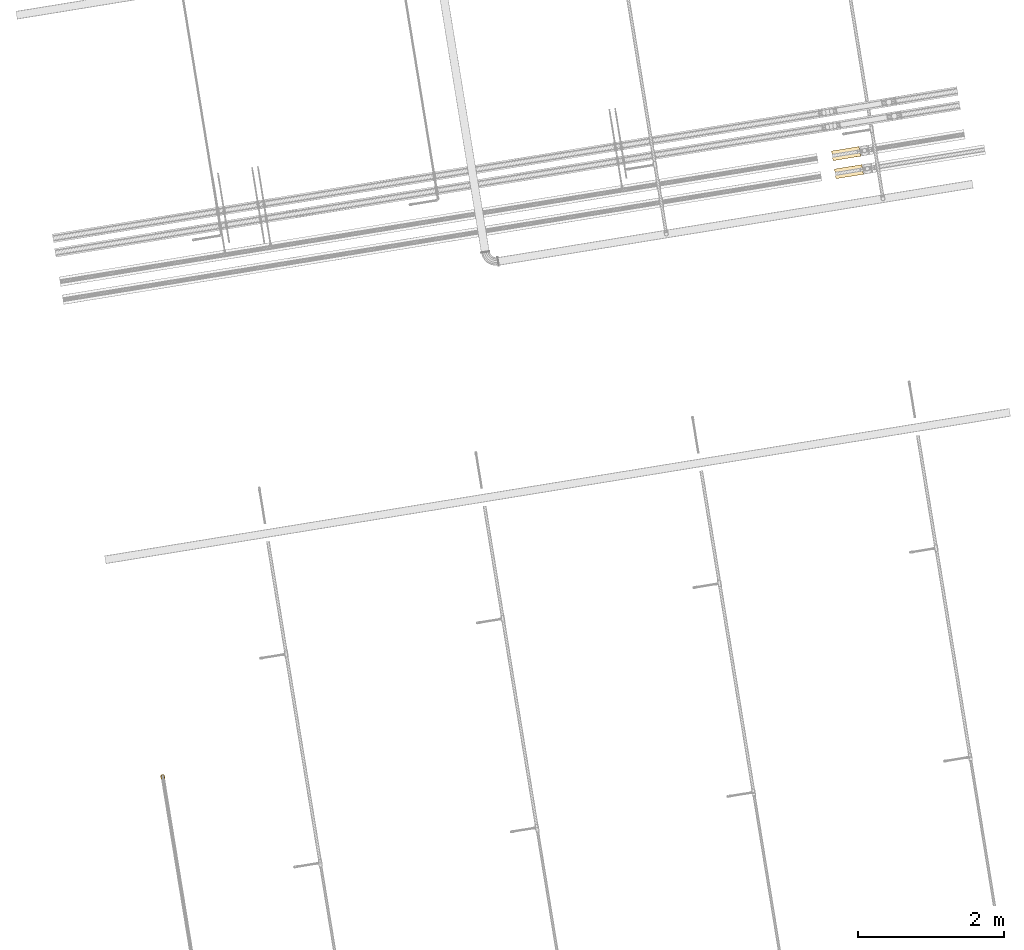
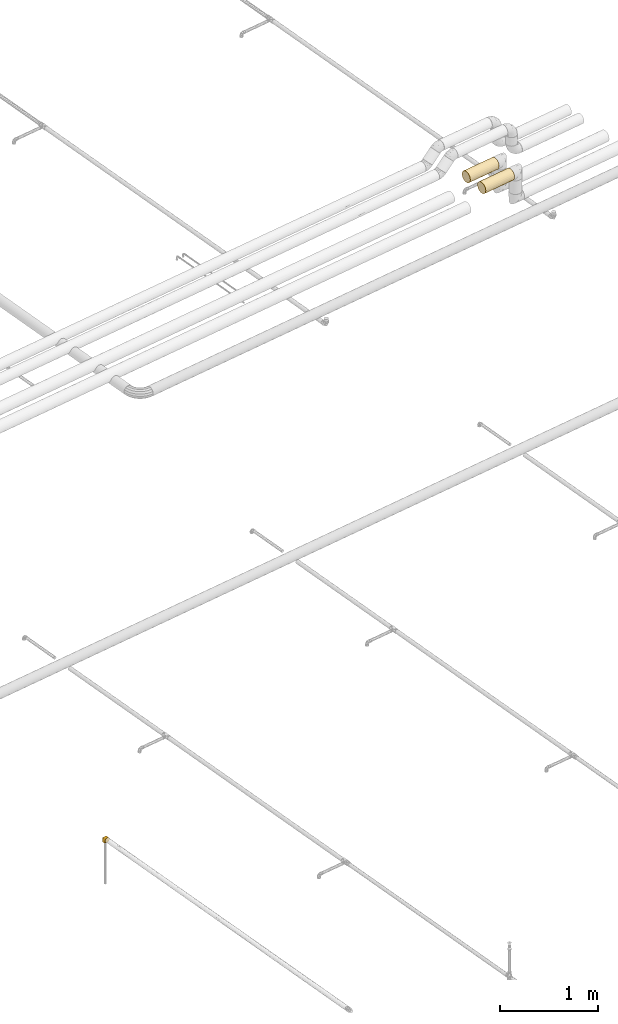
# One storey, part 4 of 56: 3 coverings.
"""IFC2X3 building model written with IfcOpenShell, lengths in millimetres."""

from ifc_helpers import new_model, entity, si_unit, converted_unit, derived_unit, direction, frame, origin, origin_with_axes, place, context, subcontext, project, spatial, faceted_brep, material, type_object, element, save


model = new_model("IFC2X3")

# Units and contexts
model_context = context("Model", 3, precision=0.01, world=origin(), true_north=direction((6.12323399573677e-17, 1.0)))
plan_context = context("Plan", 3, precision=1e-05, world=origin_with_axes())
body_context = subcontext(model_context, "Body", "Model", "MODEL_VIEW")
ifc_project = project(units=[converted_unit("PLANEANGLEUNIT", "DEGREE", entity("IfcPositiveLengthMeasure", 0.0174532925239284), si_unit("PLANEANGLEUNIT", "RADIAN"), dimensions=[0, 0, 0, 0, 0, 0, 0]), si_unit("AREAUNIT", "SQUARE_METRE"), si_unit("LENGTHUNIT", "METRE", prefix="MILLI"), si_unit("MASSUNIT", "GRAM", prefix="KILO"), si_unit("POWERUNIT", "WATT"), si_unit("PRESSUREUNIT", "PASCAL", prefix="KILO"), si_unit("FORCEUNIT", "NEWTON", prefix="KILO"), si_unit("ELECTRICVOLTAGEUNIT", "VOLT"), si_unit("ELECTRICCURRENTUNIT", "AMPERE"), si_unit("THERMODYNAMICTEMPERATUREUNIT", "DEGREE_CELSIUS"), si_unit("TIMEUNIT", "SECOND"), si_unit("VOLUMEUNIT", "CUBIC_METRE"), derived_unit("LINEARVELOCITYUNIT", [(si_unit("LENGTHUNIT", "METRE"), 1), (si_unit("TIMEUNIT", "SECOND"), -1)]), derived_unit("VOLUMETRICFLOWRATEUNIT", [(si_unit("VOLUMEUNIT", "CUBIC_METRE"), 1), (si_unit("TIMEUNIT", "SECOND"), -1)]), derived_unit("THERMALTRANSMITTANCEUNIT", [(si_unit("POWERUNIT", "WATT"), 1), (si_unit("THERMODYNAMICTEMPERATUREUNIT", "KELVIN"), -1), (si_unit("AREAUNIT", "SQUARE_METRE"), -1)]), derived_unit("SOUNDPRESSUREUNIT", [(si_unit("PRESSUREUNIT", "PASCAL"), 1)])], contexts=[model_context, plan_context])

# Site, building, storey
site_placement = place(None, frame((-3.09682673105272e-06, 1.93776733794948e-05, 0.0), z_axis=(0.0, 0.0, 1.0), x_axis=(-0.160806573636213, 0.986985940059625, 0.0)))
site = spatial("IfcSite", under=ifc_project, at=site_placement, Name="Default", CompositionType="ELEMENT")
building_placement = place(site_placement, frame((0.0, 0.0, 0.0), z_axis=(0.0, 0.0, 1.0), x_axis=(1.0, -2.77555756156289e-17, 0.0)))
building = spatial("IfcBuilding", under=site, at=building_placement, Name="Bygning (endres i Project Information)", CompositionType="ELEMENT")
storey_placement = place(building_placement, frame((0.0, 0.0, 51360.0000000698), z_axis=(0.0, 0.0, 1.0), x_axis=(1.0, -2.77555756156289e-17, 0.0)))
storey = spatial("IfcBuildingStorey", under=building, at=storey_placement, Name="H01-Nivå D+0,36", CompositionType="ELEMENT", Elevation=51360.0000000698)

# Coverings
ifc_material_1 = material(Name="3103.001 KV")
covering_type_1 = type_object("IfcCoveringType", Name="Pipe Insulation:GLAVA kondensisol. slange økende 13mm (11,0-16,0)", PredefinedType="INSULATION")
covering_1_placement = place(storey_placement, frame((1004355.11179516, -384380.253231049, 3730.09527223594), z_axis=(0.0, 0.0, 1.0), x_axis=(1.0, -2.77555756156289e-17, 0.0)))
element("IfcCovering", 1, at=covering_1_placement, inside=storey, type_object=covering_type_1, material=ifc_material_1, Name="Pipe Insulation:GLAVA kondensisol. slange økende 13mm (11,0-16,0)", ObjectType="Pipe Insulation:GLAVA kondensisol. slange økende 13mm (11,0-16,0)", PredefinedType="INSULATION", context=body_context, shape_type="Brep", body=[
    faceted_brep([(36.0, 23.0375386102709, -2.48298518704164), (0.0, 30.0952722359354, -1.5952722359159), (0.0, 22.7189294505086, -2.56638618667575), (0.0, 15.8452722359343, -5.41354822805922), (36.0, 16.4202853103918, -5.09037806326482), (22.3496227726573, 1.59527223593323, -30.0952722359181), (32.9996913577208, 1.61283233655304, -29.0949635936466), (32.4869396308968, 1.63986369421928, -28.5822118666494), (32.0, 1.66553428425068, -28.0952722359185), (0.0, 9.94272897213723, -9.94272897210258), (36.0, 10.6548315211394, -9.25494438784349), (36.0, 30.0952722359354, -1.5952722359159), (10.6992471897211, 1.59527223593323, -30.0952722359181), (36.0, 6.10025913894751, -14.7170621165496), (36.0, 3.03996018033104, -21.1364726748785), (0.0, 5.41354822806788, -15.845272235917), (0.0, 2.56638618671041, -22.7189294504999), (0.0, 1.59527223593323, -30.0952722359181), (36.0, 1.66553428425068, -28.0952722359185), (34.0, 1.59527223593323, -30.0952722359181), (35.000308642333, 1.61283233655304, -29.0949635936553), (36.0, 1.59527223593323, -30.0952722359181), (36.0, 42.3994950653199, -18.57736558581), (36.0, 47.3407808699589, -22.8123578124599), (36.0, 51.1427139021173, -28.0952722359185), (36.0, 58.5250101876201, -28.0952722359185), (36.0, 57.1505842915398, -21.1364726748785), (36.0, 54.0902853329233, -14.717062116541), (36.0, 49.5357129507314, -9.25494438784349), (36.0, 43.770259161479, -5.09037806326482), (36.0, 37.1530058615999, -2.48298518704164), (36.0, 9.04783056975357, -28.0952722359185), (36.0, 12.8497636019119, -22.8123578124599), (36.0, 17.7910494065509, -18.57736558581), (36.0, 23.676939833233, -15.8130237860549), (36.0, 30.0952722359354, -14.8509832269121), (36.0, 36.5136046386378, -15.8130237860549), (36.0, 1.66553428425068, -32.0952722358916), (36.0, 1.63098246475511, -28.7502005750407), (36.0, 1.61290907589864, -29.0927809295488), (36.0, 1.61316291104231, -31.1049496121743), (36.0, 1.6308998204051, -31.4403477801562), (36.0, 58.5952722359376, -30.0952722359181), (36.0, 58.5776353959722, -29.0927809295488), (36.0, 58.5595620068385, -28.7502005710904), (36.0, 58.5250101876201, -32.0952722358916), (36.0, 58.5596446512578, -31.4403477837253), (36.0, 58.5773815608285, -31.1049496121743), (0.0, 31.9393579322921, -58.352493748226), (0.0, 33.7834436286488, -58.1097152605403), (4.44631296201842, 32.8454938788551, -58.3273600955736), (4.89913605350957, 38.2248587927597, -57.2730007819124), (0.0, 37.4716150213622, -57.6241582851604), (0.0, 39.1900293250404, -56.912367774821), (0.0, 50.2478154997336, -50.2478154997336), (7.09322573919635, 47.7365660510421, -52.3210767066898), (0.0, 47.2965438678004, -52.5124058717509), (0.0, 42.6268579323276, -55.488786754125), (0.0, 44.3452722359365, -54.7769962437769), (5.77915648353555, 43.2555567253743, -55.2290782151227), (4.56249890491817, 35.5957155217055, -58.0594479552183), (0.0, 35.6275293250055, -57.866936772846), (4.5044059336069, 34.2206047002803, -58.1934040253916), (7.86391171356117, 49.8160207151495, -50.6705505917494), (5.23577320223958, 40.8540020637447, -56.4865536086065), (0.0, 40.9084436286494, -56.2005772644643), (6.32253976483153, 45.6571113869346, -53.9716028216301), (0.0, 52.5124058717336, -47.2965438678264), (0.0, 54.7769962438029, -44.3452722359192), (10.0314721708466, 53.1570959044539, -46.8404891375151), (13.1982986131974, 55.5149672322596, -42.9828284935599), (0.0, 57.6241582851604, -37.4716150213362), (23.1773980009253, 57.0952722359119, -39.2194160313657), (17.7452992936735, 56.7694858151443, -40.1320212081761), (29.3750346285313, 58.2175000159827, -34.7202376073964), (0.0, 58.5952722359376, -30.0952722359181), (4.38821999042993, 31.4703830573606, -58.4613161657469), (24.8111800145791, 57.073329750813, -39.2840922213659), (23.9949796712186, 57.0896581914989, -39.2360121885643), (10.6992433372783, 58.5952722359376, -30.0952722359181), (22.3496216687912, 58.5952722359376, -30.0952722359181), (34.0, 58.5952722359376, -30.0952722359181), (0.0, 30.0952722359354, -58.5952722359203), (4.33012701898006, 30.0952722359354, -58.5952722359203), (29.3747052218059, 1.97309863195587, -34.7205670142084), (0.0, 2.56638618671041, -37.4716150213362), (4.38821999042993, 28.7201614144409, -58.4613161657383), (0.0, 28.2511865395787, -58.352493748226), (13.1982986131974, 4.67557723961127, -42.9828284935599), (17.7452992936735, 3.42105865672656, -40.1320212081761), (0.0, 5.41354822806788, -44.3452722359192), (10.0314721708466, 7.03344856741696, -46.8404891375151), (0.0, 17.5636865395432, -55.488786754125), (5.23577320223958, 19.3365424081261, -56.4865536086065), (5.77915648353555, 16.9349877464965, -55.2290782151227), (0.0, 12.8940006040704, -52.5124058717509), (6.32253976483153, 14.5334330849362, -53.9716028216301), (7.09322573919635, 12.4539784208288, -52.3210767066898), (23.1773980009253, 3.09527223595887, -39.2194160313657), (0.0, 7.67813860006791, -47.2965438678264), (0.0, 9.94272897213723, -50.2478154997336), (7.86391171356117, 10.3745237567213, -50.6705505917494), (23.9949796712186, 3.10088628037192, -39.2360121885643), (24.8111800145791, 3.11721472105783, -39.2840922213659), (4.44631296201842, 27.3450505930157, -58.3273600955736), (0.0, 26.407100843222, -58.1097152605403), (0.0, 24.5630151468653, -57.866936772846), (4.5044059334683, 25.9699397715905, -58.1934040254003), (0.0, 15.8452722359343, -54.7769962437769), (0.0, 21.0005151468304, -56.9123677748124), (4.89913605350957, 21.9656856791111, -57.2730007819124), (0.0, 22.7189294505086, -57.6241582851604), (4.56249890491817, 24.5948289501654, -58.0594479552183), (0.0, 19.2821008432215, -56.2005772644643), (32.0, 58.5250101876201, -28.0952722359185), (32.4869396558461, 58.550680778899, -28.5822118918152), (32.9996913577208, 58.5777121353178, -29.0949635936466), (0.0, 57.6241582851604, -22.7189294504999), (0.0, 54.7769962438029, -15.845272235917), (35.000308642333, 58.5777121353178, -29.0949635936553), (0.0, 50.2478154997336, -9.94272897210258), (0.0, 44.3452722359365, -5.41354822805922), (0.0, 37.4716150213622, -2.56638618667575), (61.6128730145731, 37.1507129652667, -28.0952722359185), (62.5000000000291, 30.0952722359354, -64.095272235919), (61.5288860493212, 37.4716150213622, -64.095272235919), (58.6817240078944, 44.3452722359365, -64.095272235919), (59.0071711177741, 43.766094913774, -28.0952722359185), (34.0, 58.5952722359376, -41.7456498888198), (35.000308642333, 58.5777121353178, -31.0955808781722), (35.5130603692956, 58.5506807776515, -31.6083326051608), (54.1525432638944, 50.2478154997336, -64.095272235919), (54.8451890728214, 49.5305003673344, -28.0952722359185), (62.5000000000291, 30.0952722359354, -28.0952722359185), (34.0, 58.5952722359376, -53.3960275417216), (49.3862189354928, 54.0851506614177, -28.0952722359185), (42.9700981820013, 57.1468403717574, -28.0952722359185), (48.250000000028, 54.7769962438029, -64.095272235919), (41.3763427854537, 57.6241582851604, -64.095272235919), (34.0, 58.5952722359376, -64.095272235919), (34.0, 58.5952722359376, -28.0952722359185), (45.517906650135, 17.7910494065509, -28.0952722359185), (41.2829144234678, 12.8497636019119, -28.0952722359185), (42.9700981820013, 3.04370410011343, -28.0952722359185), (49.3862189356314, 6.1053938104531, -28.0952722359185), (54.8451890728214, 10.6600441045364, -28.0952722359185), (59.0071711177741, 16.4244495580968, -28.0952722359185), (61.6128730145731, 23.0398315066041, -28.0952722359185), (41.2829144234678, 47.3407808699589, -28.0952722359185), (45.517906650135, 42.3994950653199, -28.0952722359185), (48.2822484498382, 36.5136046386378, -28.0952722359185), (49.2442890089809, 30.0952722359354, -28.0952722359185), (48.2822484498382, 23.676939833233, -28.0952722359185), (35.3450755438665, 58.5596446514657, -28.0952722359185), (35.0096773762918, 58.5773815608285, -28.0952722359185), (32.990322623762, 58.5773815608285, -28.0952722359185), (32.6549244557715, 58.5596446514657, -28.0952722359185), (34.0, 1.59527223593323, -28.0952722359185), (35.0096773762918, 1.61316291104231, -28.0952722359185), (35.3450755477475, 1.63089982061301, -28.0952722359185), (32.6549244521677, 1.63089982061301, -28.0952722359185), (32.990322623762, 1.61316291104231, -28.0952722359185), (26.6236572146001, 57.6241582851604, -64.095272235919), (5.50000000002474, 30.0952722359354, -64.095272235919), (5.63395607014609, 31.4703830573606, -59.7070522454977), (5.74277848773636, 31.9393579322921, -64.095272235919), (21.1124437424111, 55.5149672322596, -50.896973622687), (23.9632510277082, 56.7694858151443, -46.3499729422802), (19.7500000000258, 54.7769962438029, -64.095272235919), (17.2547830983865, 53.1570959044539, -54.063800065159), (8.6064854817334, 42.6268579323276, -64.095272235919), (7.60871862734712, 40.8540020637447, -58.8594990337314), (8.86619402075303, 43.2555567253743, -58.3161157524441), (11.5828663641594, 47.2965438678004, -64.095272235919), (10.1236694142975, 45.6571113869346, -57.7727324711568), (11.7741955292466, 47.7365660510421, -57.0020464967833), (24.8758562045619, 57.0952722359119, -40.9178742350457), (16.7987283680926, 52.5124058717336, -64.095272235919), (13.8474567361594, 50.2478154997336, -64.095272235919), (13.4247216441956, 49.8160207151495, -56.2313605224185), (24.8592600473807, 57.0896581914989, -40.100292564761), (5.76791214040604, 32.8454938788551, -59.6489592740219), (5.98555697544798, 33.7834436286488, -64.095272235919), (6.22833546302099, 35.6275293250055, -64.0952722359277), (5.90186821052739, 34.2206047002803, -59.590866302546), (9.3182759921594, 44.3452722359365, -64.095272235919), (7.18290446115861, 39.1900293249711, -64.095272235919), (6.82227145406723, 38.2248587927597, -59.1961361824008), (6.47111395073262, 37.4716150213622, -64.095272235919), (6.03582428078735, 35.5957155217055, -59.5327733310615), (7.89469497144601, 40.9084436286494, -64.095272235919), (5.50000000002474, 30.0952722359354, -59.7651452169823), (34.0, 1.59527223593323, -41.745651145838), (35.5130603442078, 1.63986369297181, -31.608332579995), (35.000308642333, 1.61283233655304, -31.0955808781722), (34.0, 1.59527223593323, -53.3960300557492), (41.3763427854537, 2.56638618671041, -64.095272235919), (48.250000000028, 5.41354822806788, -64.095272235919), (34.0, 1.59527223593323, -64.095272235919), (54.1525432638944, 9.94272897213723, -64.095272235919), (58.6817240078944, 15.8452722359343, -64.095272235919), (61.5288860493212, 22.7189294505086, -64.095272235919), (42.1256266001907, 21.438588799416, -21.9696454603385), (43.1335136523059, 30.0952722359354, -20.9617585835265), (42.1256267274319, 38.7519557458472, -21.9696456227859), (35.513060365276, 1.63986369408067, -28.582211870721), (35.5130603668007, 58.5506807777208, -28.5822118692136), (26.6236572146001, 2.56638618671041, -64.095272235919), (19.7500000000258, 5.41354822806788, -64.095272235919), (16.7987283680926, 7.67813860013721, -64.095272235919), (13.8474567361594, 9.94272897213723, -64.095272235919), (11.5828663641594, 12.8940006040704, -64.095272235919), (9.3182759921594, 15.8452722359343, -64.095272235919), (8.606485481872, 17.5636865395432, -64.095272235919), (7.89469497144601, 19.2821008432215, -64.095272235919), (7.18290446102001, 21.0005151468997, -64.095272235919), (6.47111395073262, 22.7189294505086, -64.095272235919), (6.2283354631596, 24.5630151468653, -64.095272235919), (5.98555697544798, 26.407100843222, -64.095272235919), (5.74277848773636, 28.2511865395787, -64.095272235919), (5.76791214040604, 27.3450505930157, -59.6489592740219), (6.82227145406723, 21.9656856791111, -59.1961361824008), (11.7741955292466, 12.4539784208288, -57.0020464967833), (8.86619402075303, 16.9349877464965, -58.3161157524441), (6.03582428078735, 24.5948289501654, -59.5327733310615), (5.901868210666, 25.9699397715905, -59.590866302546), (13.4247216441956, 10.3745237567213, -56.2313605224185), (7.60871862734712, 19.3365424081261, -58.8594990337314), (10.1236694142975, 14.5334330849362, -57.7727324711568), (17.2547830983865, 7.03344856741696, -54.063800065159), (21.1124437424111, 4.67557723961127, -50.896973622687), (24.8758562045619, 3.09527223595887, -40.9178742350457), (23.9632510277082, 3.42105865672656, -46.3499729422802), (5.63395607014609, 28.7201614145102, -59.7070522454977), (24.8592600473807, 3.10088628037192, -40.100292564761), (12.5667803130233, 7.45784690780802, -49.4676744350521), (10.795353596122, 10.6511909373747, -53.299918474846), (14.8376852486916, 7.4578465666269, -51.7772487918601), (20.807591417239, 3.5967024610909, -44.1535254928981), (16.8529359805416, 5.08236859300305, -47.2423356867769), (19.8186447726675, 4.4900946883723, -48.1543171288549), (7.88860716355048, 15.7022298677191, -56.2066651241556), (16.1478122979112, 4.40134820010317, -44.0965734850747), (4.94974746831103, 30.0952722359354, -59.145524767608), (24.0416305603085, 3.09527223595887, -40.0536416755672), (24.0416305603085, 57.0952722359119, -40.0536416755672), (14.0351982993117, 54.7343271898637, -45.9265833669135), (12.8058694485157, 52.6819946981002, -49.7806184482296), (10.7953535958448, 49.5393535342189, -53.299918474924), (19.8772604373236, 56.5758868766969, -43.3519647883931), (19.975344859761, 55.7845213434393, -47.9415737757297), (16.7315468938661, 55.037713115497, -47.3637251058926), (7.88860716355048, 44.4883146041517, -56.2066651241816), (15.4294935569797, 53.1193326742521, -51.5324654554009)], [[[0, 1, 2]], [[2, 3, 4]], [[5, 6, 7, 8]], [[9, 10, 3]], [[11, 1, 0]], [[10, 4, 3]], [[2, 4, 0]], [[12, 5, 8]], [[9, 13, 10]], [[14, 15, 16]], [[12, 8, 16]], [[12, 16, 17]], [[14, 16, 8]], [[13, 15, 14]], [[18, 14, 8]], [[19, 6, 5]], [[20, 19, 21]], [[15, 13, 9]], [[22, 23, 24, 25, 26, 27, 28, 29, 30, 11, 0, 4, 10, 13, 14, 18, 31, 32, 33, 34, 35, 36]], [[37, 18, 38, 39, 21, 40, 41]], [[42, 43, 44, 25, 45, 46, 47]], [[48, 49, 50]], [[51, 52, 53]], [[54, 55, 56]], [[57, 58, 59]], [[60, 61, 52]], [[61, 62, 49]], [[54, 63, 55]], [[49, 62, 50]], [[51, 60, 52]], [[64, 53, 65, 57]], [[66, 56, 55]], [[63, 54, 67]], [[62, 61, 60]], [[64, 57, 59]], [[67, 68, 69]], [[58, 66, 59]], [[68, 70, 69]], [[70, 68, 71]], [[72, 73, 71]], [[71, 73, 70]], [[74, 71, 75]], [[48, 50, 76]], [[66, 58, 56]], [[77, 78, 74]], [[53, 64, 51]], [[71, 74, 72]], [[74, 75, 79, 80, 81]], [[72, 74, 78]], [[76, 82, 48]], [[82, 76, 83]], [[63, 67, 69]], [[84, 17, 85]], [[82, 86, 87]], [[85, 88, 89]], [[88, 85, 90]], [[88, 90, 91]], [[92, 93, 94]], [[95, 96, 97]], [[98, 85, 89]], [[84, 19, 5, 12, 17]], [[91, 90, 99]], [[100, 97, 101]], [[102, 103, 84]], [[98, 102, 84]], [[85, 98, 84]], [[104, 105, 87]], [[106, 105, 107]], [[96, 95, 108]], [[93, 109, 110]], [[86, 104, 87]], [[111, 110, 109]], [[105, 104, 107]], [[112, 106, 107]], [[93, 92, 113, 109]], [[91, 99, 101]], [[94, 108, 92]], [[94, 96, 108]], [[112, 111, 106]], [[95, 97, 100]], [[86, 82, 83]], [[111, 112, 110]], [[101, 99, 100]], [[80, 114, 115, 116]], [[79, 117, 114]], [[114, 117, 26]], [[26, 117, 118]], [[75, 117, 79]], [[116, 81, 80]], [[42, 81, 119]], [[80, 79, 114]], [[114, 26, 25]], [[118, 27, 26]], [[28, 120, 121]], [[29, 121, 122]], [[30, 122, 1]], [[27, 120, 28]], [[29, 28, 121]], [[122, 30, 29]], [[1, 11, 30]], [[120, 27, 118]], [[123, 124, 125]], [[125, 126, 127]], [[128, 129, 130, 45]], [[131, 132, 126]], [[133, 124, 123]], [[132, 127, 126]], [[125, 127, 123]], [[134, 128, 45]], [[131, 135, 132]], [[136, 137, 138]], [[134, 45, 138]], [[134, 138, 139]], [[136, 138, 45]], [[135, 137, 136]], [[25, 136, 45]], [[81, 129, 128]], [[119, 81, 140]], [[137, 135, 131]], [[141, 142, 31, 18, 143, 144, 145, 146, 147, 133, 123, 127, 132, 135, 136, 25, 24, 148, 149, 150, 151, 152]], [[25, 153, 154, 140, 155, 156, 114]], [[157, 158, 159, 18, 8, 160, 161]], [[74, 139, 162]], [[163, 164, 165]], [[162, 166, 167]], [[166, 162, 168]], [[166, 168, 169]], [[170, 171, 172]], [[173, 174, 175]], [[176, 162, 167]], [[74, 81, 128, 134, 139]], [[169, 168, 177]], [[178, 175, 179]], [[180, 77, 74]], [[176, 180, 74]], [[162, 176, 74]], [[181, 182, 165]], [[183, 182, 184]], [[174, 173, 185]], [[171, 186, 187]], [[164, 181, 165]], [[188, 187, 186]], [[182, 181, 184]], [[189, 183, 184]], [[171, 170, 190, 186]], [[169, 177, 179]], [[172, 185, 170]], [[172, 174, 185]], [[189, 188, 183]], [[173, 175, 178]], [[164, 163, 191]], [[188, 189, 187]], [[179, 177, 178]], [[7, 6, 161, 160, 8]], [[6, 19, 157]], [[6, 157, 161]], [[192, 37, 193, 194]], [[195, 196, 37]], [[37, 196, 143]], [[143, 196, 197]], [[198, 196, 195]], [[194, 19, 192]], [[157, 19, 20]], [[192, 195, 37]], [[37, 143, 18]], [[197, 144, 143]], [[145, 199, 200]], [[146, 200, 201]], [[147, 201, 124]], [[144, 199, 145]], [[146, 145, 200]], [[201, 147, 146]], [[124, 133, 147]], [[199, 144, 197]], [[202, 34, 33]], [[35, 34, 203]], [[203, 34, 202]], [[141, 202, 33]], [[33, 32, 142, 141]], [[152, 151, 203]], [[141, 152, 202]], [[142, 32, 31]], [[203, 202, 152]], [[22, 204, 149]], [[36, 204, 22]], [[22, 149, 148, 23]], [[24, 23, 148]], [[35, 203, 36]], [[203, 204, 36]], [[203, 151, 150]], [[204, 150, 149]], [[203, 150, 204]], [[16, 15, 9, 3, 2, 1, 122, 121, 120, 118, 117, 75, 71, 68, 67, 54, 56, 58, 57, 65, 53, 52, 61, 49, 48, 82, 87, 105, 106, 111, 109, 113, 92, 108, 95, 100, 99, 90, 85, 17]], [[205, 20, 39, 38, 18]], [[20, 21, 39]], [[21, 19, 194]], [[193, 37, 41, 40, 194]], [[194, 40, 21]], [[130, 129, 47, 46, 45]], [[129, 81, 42]], [[129, 42, 47]], [[206, 25, 44, 43, 119]], [[119, 43, 42]], [[138, 137, 131, 126, 125, 124, 201, 200, 199, 197, 196, 198, 207, 208, 209, 210, 211, 212, 213, 214, 215, 216, 217, 218, 219, 188, 186, 190, 170, 185, 173, 178, 177, 168, 162, 139]], [[219, 163, 165, 182, 183]], [[206, 119, 154, 153, 25]], [[119, 140, 154]], [[140, 81, 116]], [[115, 114, 156, 155, 116]], [[116, 155, 140]], [[219, 218, 220]], [[221, 216, 215]], [[210, 222, 211]], [[213, 212, 223]], [[224, 217, 216]], [[217, 225, 218]], [[210, 226, 222]], [[218, 225, 220]], [[221, 224, 216]], [[227, 215, 214, 213]], [[228, 211, 222]], [[226, 210, 209]], [[225, 217, 224]], [[227, 213, 223]], [[209, 208, 229]], [[212, 228, 223]], [[208, 230, 229]], [[230, 208, 207]], [[231, 232, 207]], [[207, 232, 230]], [[84, 207, 198]], [[219, 220, 233]], [[228, 212, 211]], [[103, 234, 84]], [[215, 227, 221]], [[207, 84, 231]], [[84, 198, 195, 192, 19]], [[231, 84, 234]], [[233, 163, 219]], [[163, 233, 191]], [[226, 209, 229]], [[205, 18, 159, 158, 20]], [[20, 158, 157]], [[235, 236, 237]], [[226, 229, 237]], [[101, 236, 235]], [[238, 239, 240]], [[224, 221, 227, 93, 110, 112]], [[241, 93, 227]], [[232, 240, 230]], [[96, 241, 236]], [[88, 242, 89]], [[242, 238, 98]], [[98, 89, 242]], [[236, 241, 228]], [[238, 242, 239]], [[238, 240, 232]], [[91, 242, 88]], [[243, 112, 107, 104, 86, 83]], [[243, 191, 233, 220, 225, 224]], [[235, 242, 91]], [[98, 238, 244]], [[236, 101, 97, 96]], [[236, 228, 222, 226]], [[241, 227, 223, 228]], [[229, 230, 240]], [[240, 237, 229]], [[232, 231, 238]], [[231, 244, 238]], [[242, 235, 239]], [[226, 237, 236]], [[240, 239, 237]], [[235, 237, 239]], [[101, 235, 91]], [[112, 243, 224]], [[241, 96, 94, 93]], [[102, 234, 103]], [[244, 102, 98]], [[244, 231, 234]], [[244, 234, 102]], [[72, 78, 245]], [[245, 78, 180]], [[180, 176, 245]], [[180, 78, 77]], [[246, 70, 73]], [[246, 69, 70]], [[63, 69, 247]], [[248, 66, 55, 63]], [[249, 72, 245]], [[169, 250, 166]], [[249, 251, 246]], [[252, 64, 59, 66]], [[243, 83, 76, 50, 62, 60]], [[189, 243, 60]], [[253, 247, 251]], [[73, 249, 246]], [[189, 60, 51, 64, 171, 187]], [[69, 246, 247]], [[245, 176, 249]], [[247, 246, 251]], [[249, 176, 250]], [[248, 247, 253]], [[64, 252, 171]], [[179, 253, 169]], [[167, 166, 250]], [[248, 252, 66]], [[253, 179, 248]], [[250, 169, 253]], [[243, 189, 184, 181, 164, 191]], [[248, 179, 175, 174]], [[252, 174, 172, 171]], [[248, 174, 252]], [[73, 72, 249]], [[249, 250, 251]], [[250, 253, 251]], [[167, 250, 176]], [[63, 247, 248]], [[219, 183, 188]]]),
])
ifc_material_2 = material(Name="3200.002 Retur")
covering_type_2 = type_object("IfcCoveringType", Name="Pipe Insulation:GLAVA Rørskål ClimPipe Alu2, isol.kl.4, 45°C", PredefinedType="INSULATION")
covering_2_placement = place(storey_placement, frame((1011219.80953617, -395129.820539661, 3531.40472772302), z_axis=(0.0, 0.0, 1.0), x_axis=(1.0, -2.77555756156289e-17, 0.0)))
element("IfcCovering", 2, at=covering_2_placement, inside=storey, type_object=covering_type_2, material=ifc_material_2, Name="Pipe Insulation:GLAVA Rørskål ClimPipe Alu2, isol.kl.4, 45°C", ObjectType="Pipe Insulation:GLAVA Rørskål ClimPipe Alu2, isol.kl.4, 45°C", PredefinedType="INSULATION", context=body_context, shape_type="Brep", body=[
    faceted_brep([(52.3471952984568, 1.59527223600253, 3.59527227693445), (84.8433492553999, 1.59527223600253, 3.59527227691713), (98.6988514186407, 1.59527223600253, 8.73898999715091), (111.084056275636, 1.59527223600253, 16.790801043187), (121.40149398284, 1.59527223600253, 27.3581172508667), (129.153520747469, 1.59527223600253, 39.9299875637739), (133.962563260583, 1.59527223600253, 53.8943445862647), (135.595272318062, 1.59527223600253, 68.5952722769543), (133.312302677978, 1.59527223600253, 85.9361483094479), (126.618974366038, 1.59527223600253, 102.095272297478), (115.971426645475, 1.59527223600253, 115.971426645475), (102.095272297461, 1.59527223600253, 126.618974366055), (85.9361483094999, 1.59527223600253, 133.31230267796), (68.5952722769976, 1.59527223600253, 135.595272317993), (51.2543962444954, 1.59527223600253, 133.31230267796), (35.0952722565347, 1.59527223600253, 126.618974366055), (21.2191179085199, 1.59527223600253, 115.971426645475), (10.5715701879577, 1.59527223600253, 102.095272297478), (3.87824187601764, 1.59527223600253, 85.9361483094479), (1.59527223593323, 1.59527223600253, 68.5952722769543), (3.22798129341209, 1.59527223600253, 53.8943445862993), (8.03702380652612, 1.59527223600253, 39.9299875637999), (15.7890505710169, 1.59527223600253, 27.3581172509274), (26.1064882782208, 1.59527223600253, 16.790801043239), (38.491693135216, 1.59527223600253, 8.73898999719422), (35.0952722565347, 383.063237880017, 10.5715701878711), (21.2191179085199, 383.063237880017, 21.2191179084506), (10.5715701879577, 383.063237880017, 35.0952722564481), (3.87824187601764, 383.063237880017, 51.254396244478), (1.59527223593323, 383.063237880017, 68.5952722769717), (3.87824187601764, 383.063237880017, 85.9361483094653), (10.5715701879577, 383.063237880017, 102.095272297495), (21.2191179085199, 383.063237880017, 115.971426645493), (35.0952722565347, 383.063237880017, 126.618974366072), (51.2543962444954, 383.063237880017, 133.312302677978), (68.5952722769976, 383.063237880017, 135.59527231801), (85.9361483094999, 383.063237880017, 133.312302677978), (102.095272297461, 383.063237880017, 126.618974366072), (115.971426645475, 383.063237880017, 115.971426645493), (126.618974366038, 383.063237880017, 102.095272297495), (133.312302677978, 383.063237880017, 85.9361483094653), (135.595272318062, 383.063237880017, 68.5952722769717), (133.312302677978, 383.063237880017, 51.254396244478), (126.618974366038, 383.063237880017, 35.0952722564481), (115.971426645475, 383.063237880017, 21.2191179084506), (102.095272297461, 383.063237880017, 10.5715701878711), (85.9361483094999, 383.063237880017, 3.87824187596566), (68.5952722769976, 383.063237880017, 1.59527223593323), (51.2543962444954, 383.063237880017, 3.87824187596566), (60.4099194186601, 3.0933925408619, 2.09715197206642), (68.5952722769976, 3.59527227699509, 1.5952722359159), (76.7806251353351, 3.0933925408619, 2.09715197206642)], [[[0, 1, 2, 3, 4, 5, 6, 7, 8, 9, 10, 11, 12, 13, 14, 15, 16, 17, 18, 19, 20, 21, 22, 23, 24]], [[25, 26, 27, 28, 29, 30, 31, 32, 33, 34, 35, 36, 37, 38, 39, 40, 41, 42, 43, 44, 45, 46, 47, 48]], [[29, 28, 20]], [[28, 27, 21]], [[22, 27, 26]], [[20, 19, 29]], [[21, 20, 28]], [[27, 22, 21]], [[26, 23, 22]], [[24, 25, 48]], [[48, 47, 49]], [[50, 49, 47]], [[23, 25, 24]], [[0, 24, 48]], [[49, 0, 48]], [[25, 23, 26]], [[51, 50, 47]], [[51, 47, 46]], [[2, 46, 45]], [[51, 46, 1]], [[1, 46, 2]], [[45, 3, 2]], [[45, 44, 3]], [[4, 44, 43]], [[5, 43, 42]], [[6, 42, 41]], [[4, 43, 5]], [[5, 42, 6]], [[41, 7, 6]], [[44, 4, 3]], [[8, 7, 41, 40]], [[9, 8, 40, 39]], [[39, 38, 10, 9]], [[12, 11, 37, 36]], [[13, 12, 36, 35]], [[38, 37, 11, 10]], [[14, 13, 35, 34]], [[15, 14, 34, 33]], [[33, 32, 16, 15]], [[18, 17, 31, 30]], [[19, 18, 30, 29]], [[32, 31, 17, 16]], [[0, 49, 50, 51, 1]]]),
])
ifc_material_3 = material(Name="3200.003 Tur")
covering_3_placement = place(storey_placement, frame((1010969.84157053, -395128.352574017, 3531.40472772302), z_axis=(0.0, 0.0, 1.0), x_axis=(1.0, -2.77555756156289e-17, 0.0)))
element("IfcCovering", 3, at=covering_3_placement, inside=storey, type_object=covering_type_2, material=ifc_material_3, Name="Pipe Insulation:GLAVA Rørskål ClimPipe Alu2, isol.kl.4, 45°C", ObjectType="Pipe Insulation:GLAVA Rørskål ClimPipe Alu2, isol.kl.4, 45°C", PredefinedType="INSULATION", context=body_context, shape_type="Brep", body=[
    faceted_brep([(52.3471952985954, 1.59527223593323, 3.59527227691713), (84.8433492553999, 1.59527223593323, 3.59527227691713), (98.6988514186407, 1.59527223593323, 8.73898999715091), (111.084056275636, 1.59527223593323, 16.790801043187), (121.401493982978, 1.59527223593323, 27.3581172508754), (129.153520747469, 1.59527223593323, 39.9299875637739), (133.962563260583, 1.59527223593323, 53.8943445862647), (135.595272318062, 1.59527223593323, 68.5952722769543), (133.312302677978, 1.59527223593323, 85.9361483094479), (126.618974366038, 1.59527223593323, 102.095272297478), (115.971426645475, 1.59527223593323, 115.971426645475), (102.095272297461, 1.59527223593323, 126.618974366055), (85.9361483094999, 1.59527223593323, 133.31230267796), (68.5952722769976, 1.59527223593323, 135.595272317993), (51.2543962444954, 1.59527223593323, 133.31230267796), (35.0952722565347, 1.59527223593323, 126.618974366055), (21.2191179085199, 1.59527223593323, 115.971426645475), (10.5715701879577, 1.59527223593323, 102.095272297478), (3.87824187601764, 1.59527223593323, 85.9361483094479), (1.59527223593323, 1.59527223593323, 68.5952722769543), (3.22798129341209, 1.59527223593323, 53.8943445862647), (8.03702380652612, 1.59527223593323, 39.9299875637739), (15.7890505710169, 1.59527223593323, 27.3581172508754), (26.1064882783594, 1.59527223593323, 16.790801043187), (38.4916931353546, 1.59527223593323, 8.73898999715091), (35.0952722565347, 381.595272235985, 10.5715701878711), (21.2191179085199, 381.595272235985, 21.2191179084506), (10.5715701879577, 381.595272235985, 35.0952722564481), (3.87824187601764, 381.595272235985, 51.254396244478), (1.59527223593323, 381.595272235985, 68.5952722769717), (3.87824187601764, 381.595272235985, 85.9361483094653), (10.5715701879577, 381.595272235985, 102.095272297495), (21.2191179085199, 381.595272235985, 115.971426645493), (35.0952722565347, 381.595272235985, 126.618974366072), (51.2543962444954, 381.595272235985, 133.312302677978), (68.5952722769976, 381.595272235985, 135.59527231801), (85.9361483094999, 381.595272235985, 133.312302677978), (102.095272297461, 381.595272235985, 126.618974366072), (115.971426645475, 381.595272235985, 115.971426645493), (126.618974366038, 381.595272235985, 102.095272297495), (133.312302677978, 381.595272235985, 85.9361483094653), (135.595272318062, 381.595272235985, 68.5952722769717), (133.312302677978, 381.595272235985, 51.254396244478), (126.618974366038, 381.595272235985, 35.0952722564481), (115.971426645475, 381.595272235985, 21.2191179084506), (102.095272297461, 381.595272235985, 10.5715701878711), (85.9361483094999, 381.595272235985, 3.87824187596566), (68.5952722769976, 381.595272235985, 1.59527223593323), (51.2543962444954, 381.595272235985, 3.87824187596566), (60.4099194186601, 3.09339254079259, 2.09715197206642), (68.5952722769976, 3.59527227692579, 1.5952722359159), (76.7806251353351, 3.09339254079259, 2.09715197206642)], [[[0, 1, 2, 3, 4, 5, 6, 7, 8, 9, 10, 11, 12, 13, 14, 15, 16, 17, 18, 19, 20, 21, 22, 23, 24]], [[25, 26, 27, 28, 29, 30, 31, 32, 33, 34, 35, 36, 37, 38, 39, 40, 41, 42, 43, 44, 45, 46, 47, 48]], [[29, 28, 20]], [[28, 27, 21]], [[22, 27, 26]], [[20, 19, 29]], [[21, 20, 28]], [[27, 22, 21]], [[26, 23, 22]], [[24, 25, 48]], [[48, 47, 49]], [[50, 49, 47]], [[23, 25, 24]], [[0, 24, 48]], [[49, 0, 48]], [[25, 23, 26]], [[51, 50, 47]], [[51, 47, 46]], [[2, 46, 45]], [[51, 46, 1]], [[1, 46, 2]], [[45, 3, 2]], [[45, 44, 3]], [[4, 44, 43]], [[5, 43, 42]], [[6, 42, 41]], [[4, 43, 5]], [[5, 42, 6]], [[41, 7, 6]], [[44, 4, 3]], [[8, 7, 41, 40]], [[9, 8, 40, 39]], [[39, 38, 10, 9]], [[12, 11, 37, 36]], [[13, 12, 36, 35]], [[38, 37, 11, 10]], [[14, 13, 35, 34]], [[15, 14, 34, 33]], [[33, 32, 16, 15]], [[18, 17, 31, 30]], [[19, 18, 30, 29]], [[32, 31, 17, 16]], [[0, 49, 50, 51, 1]]]),
])

save(model, "model.ifc")
